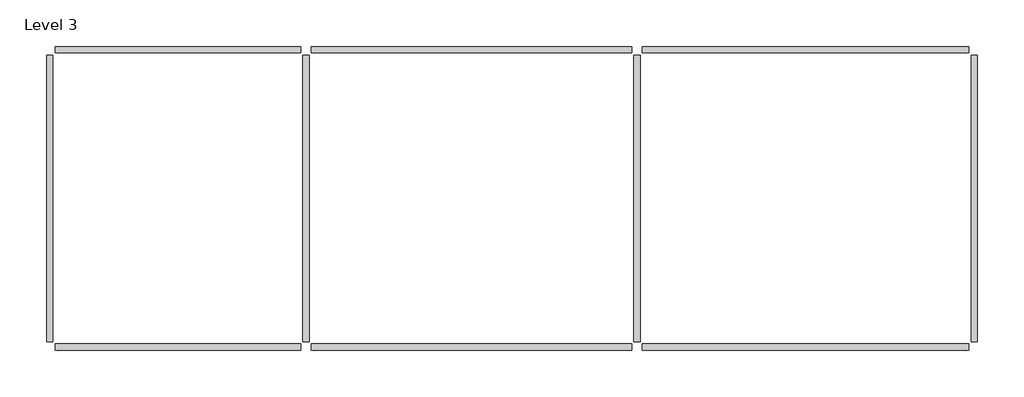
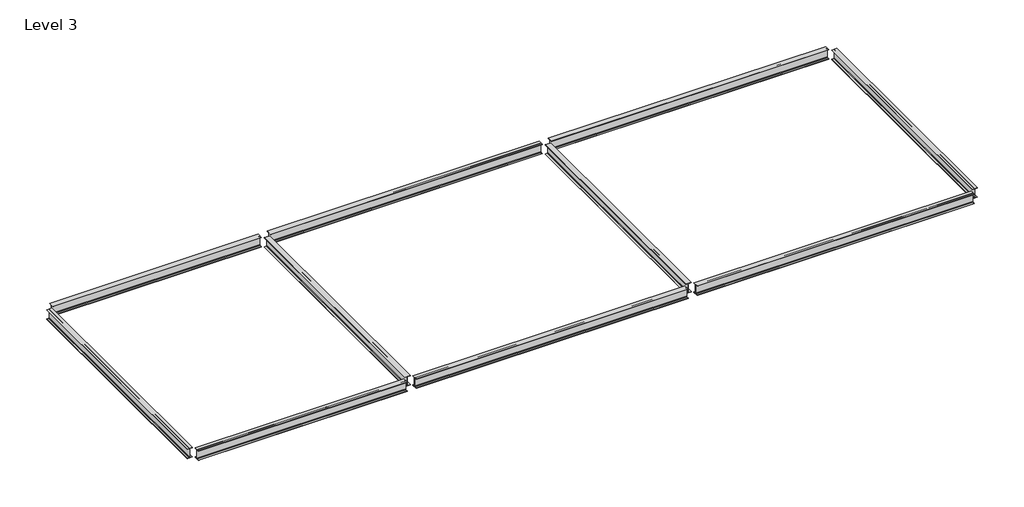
# One storey: 10 beams.
"""IFC4 building model written with IfcOpenShell, lengths in millimetres."""

import ifcopenshell
import ifcopenshell.guid

model = None  # the IFC model being written
_history = None  # IfcOwnerHistory: only IFC2X3 demands one
_inside = {}  # id of a spatial element -> (the spatial element, [elements in it])
_under = {}  # id of a project, library or spatial element -> (it, [spatial elements below it])
_declared = {}  # id of a project -> (the project, [libraries it declares])
_typed = {}  # id of a type object -> (the type object, [elements of that type])
_made_of = {}  # id of a material, layer set ... -> (it, [elements and type objects made of it])


def new_model(schema):
    """Start an empty IFC model of exactly this schema.

    Asked for "IFC4X3", IfcOpenShell would pick the latest addendum, in which some entities
    have other attributes; the version numbers below select the first issue.
    IFC2X3 requires an IfcOwnerHistory on every rooted entity: one is made here for all.
    """
    global model, _history
    if schema == "IFC4X3":
        model = ifcopenshell.file(schema_version=(4, 3, 0, 0))
    else:
        model = ifcopenshell.file(schema=schema)
    _inside.clear()
    _under.clear()
    _declared.clear()
    _typed.clear()
    _made_of.clear()
    _history = None
    if model.schema == "IFC2X3":
        org = make("IfcOrganization", Name="unknown")
        user = make(
            "IfcPersonAndOrganization",
            ThePerson=make("IfcPerson", FamilyName="unknown"),
            TheOrganization=org,
        )
        app = make(
            "IfcApplication",
            ApplicationDeveloper=org,
            Version="unknown",
            ApplicationFullName="unknown",
            ApplicationIdentifier="unknown",
        )
        _history = make(
            "IfcOwnerHistory",
            OwningUser=user,
            OwningApplication=app,
            ChangeAction="ADDED",
            CreationDate=0,
        )
    return model


def make(cls, **values):
    """One entity of the class cls with the attributes given. An attribute that is None is left unset."""
    return model.create_entity(
        cls, **{name: value for name, value in values.items() if value is not None}
    )


def rooted(cls, **values):
    """An entity with a GlobalId (a new one), such as an element, a storey or a relation."""
    return make(cls, GlobalId=ifcopenshell.guid.new(), OwnerHistory=_history, **values)


def si_unit(unit_type, name, prefix=None):
    """IfcSIUnit, for example si_unit("LENGTHUNIT", "METRE", prefix="MILLI")."""
    return make("IfcSIUnit", UnitType=unit_type, Prefix=prefix, Name=name)


def assignment(units):
    """IfcUnitAssignment: the units of a project."""
    return None if units is None else make("IfcUnitAssignment", Units=units)


def point(xyz):
    """IfcCartesianPoint."""
    return None if xyz is None else make("IfcCartesianPoint", Coordinates=xyz)


def direction(xyz):
    """IfcDirection."""
    return None if xyz is None else make("IfcDirection", DirectionRatios=xyz)


def frame(location, z_axis=None, x_axis=None):
    """IfcAxis2Placement3D, a coordinate frame: its origin and axes. An axis left out is left unset."""
    return make(
        "IfcAxis2Placement3D",
        Location=point(location),
        Axis=direction(z_axis),
        RefDirection=direction(x_axis),
    )


def frame_2d(location, x_axis=None):
    """IfcAxis2Placement2D, a coordinate frame in the plane: its origin and x axis."""
    return make(
        "IfcAxis2Placement2D", Location=point(location), RefDirection=direction(x_axis)
    )


def origin():
    """The frame at (0, 0, 0) with its axes left unset."""
    return frame((0.0, 0.0, 0.0))


def place(relative_to, where):
    """IfcLocalPlacement: puts the frame where relative to a parent placement (None: the world)."""
    return make(
        "IfcLocalPlacement", PlacementRelTo=relative_to, RelativePlacement=where
    )


def context(
    kind, dimensions, precision=None, world=None, true_north=None, identifier=None
):
    """IfcGeometricRepresentationContext, for example the 3D "Model" context."""
    return make(
        "IfcGeometricRepresentationContext",
        ContextIdentifier=identifier,
        ContextType=kind,
        CoordinateSpaceDimension=dimensions,
        Precision=precision,
        WorldCoordinateSystem=world,
        TrueNorth=true_north,
    )


def project(units=None, contexts=None):
    """IfcProject with its units and contexts."""
    return rooted(
        "IfcProject",
        Name="project",
        RepresentationContexts=contexts,
        UnitsInContext=assignment(units),
    )


def spatial(cls, under=None, at=None, **own):
    """A site, building, storey or space (cls), placed at a placement, below another one or the project."""
    s = rooted(cls, ObjectPlacement=at, **own)
    if under is not None:
        _under.setdefault(under.id(), (under, []))[1].append(s)
    return s


def polyline(points):
    """IfcPolyline through the points."""
    return make("IfcPolyline", Points=[point(p) for p in points])


def circle_curve(where, radius):
    """IfcCircle in the frame where."""
    return make("IfcCircle", Position=where, Radius=radius)


def trimmed(basis, trim1, trim2, sense, master):
    """IfcTrimmedCurve: the piece of a basis curve between two trims."""
    return make(
        "IfcTrimmedCurve",
        BasisCurve=basis,
        Trim1=trim1,
        Trim2=trim2,
        SenseAgreement=sense,
        MasterRepresentation=master,
    )


def segment(curve, same_sense, transition):
    """IfcCompositeCurveSegment."""
    return make(
        "IfcCompositeCurveSegment",
        Transition=transition,
        SameSense=same_sense,
        ParentCurve=curve,
    )


def composite_curve(segments, self_intersect=None):
    """IfcCompositeCurve: segments joined end to end."""
    return make("IfcCompositeCurve", Segments=segments, SelfIntersect=self_intersect)


def outline(outer, holes=None, kind="AREA"):
    """IfcArbitraryClosedProfileDef: a profile drawn as a closed curve; with holes, ...WithVoids."""
    if holes is None:
        return make("IfcArbitraryClosedProfileDef", ProfileType=kind, OuterCurve=outer)
    return make(
        "IfcArbitraryProfileDefWithVoids",
        ProfileType=kind,
        OuterCurve=outer,
        InnerCurves=holes,
    )


def extrude(swept, where, along, depth):
    """IfcExtrudedAreaSolid: the profile swept, set in the frame where, extruded along a direction by depth."""
    return make(
        "IfcExtrudedAreaSolid",
        SweptArea=swept,
        Position=where,
        ExtrudedDirection=direction(along),
        Depth=depth,
    )


def shape(context_of_items, identifier, shape_type, items):
    """IfcShapeRepresentation: the items that make up one representation, for example the "Body"."""
    return make(
        "IfcShapeRepresentation",
        ContextOfItems=context_of_items,
        RepresentationIdentifier=identifier,
        RepresentationType=shape_type,
        Items=items,
    )


def source(mapping_origin, context_of_items, identifier, shape_type, items):
    """IfcRepresentationMap: a shape defined once, which mapped items show again and again."""
    return make(
        "IfcRepresentationMap",
        MappingOrigin=mapping_origin,
        MappedRepresentation=shape(context_of_items, identifier, shape_type, items),
    )


def transform(
    local_origin,
    x_axis=None,
    y_axis=None,
    z_axis=None,
    scale=None,
    scale2=None,
    scale3=None,
    uniform=True,
):
    """IfcCartesianTransformationOperator3D, or its non-uniform kind. x_axis, y_axis, z_axis: its Axis1, 2, 3."""
    if uniform:
        return make(
            "IfcCartesianTransformationOperator3D",
            Axis1=direction(x_axis),
            Axis2=direction(y_axis),
            LocalOrigin=point(local_origin),
            Scale=scale,
            Axis3=direction(z_axis),
        )
    return make(
        "IfcCartesianTransformationOperator3DnonUniform",
        Axis1=direction(x_axis),
        Axis2=direction(y_axis),
        LocalOrigin=point(local_origin),
        Scale=scale,
        Axis3=direction(z_axis),
        Scale2=scale2,
        Scale3=scale3,
    )


def mapped(mapping_source, mapping_target):
    """IfcMappedItem: shows the shape of a source again, moved by a transform."""
    return make(
        "IfcMappedItem", MappingSource=mapping_source, MappingTarget=mapping_target
    )


def made_of(thing, what):
    """Note that an element or type object is made of a material, layer set ...; save() writes the relation."""
    if what is not None:
        _made_of.setdefault(what.id(), (what, []))[1].append(thing)
    return thing


def element(
    cls,
    number,
    at=None,
    inside=None,
    cuts=None,
    type_object=None,
    material=None,
    context=None,
    identifier="Body",
    shape_type=None,
    held_by="IfcProductDefinitionShape",
    body=None,
    shapes=None,
    **own,
):
    """One element of the class cls, such as IfcWall. Its Tag is "e" and its number.

    at: its placement. inside: the storey or other place that contains it. cuts: it is an
    opening in that element (IfcRelVoidsElement). A single representation is given by context,
    identifier, shape_type and body (its items); several are given by shapes. held_by: the class
    of the entity that holds the representations. save() writes the other relations.
    """
    e = rooted(cls, Tag="e%d" % number, ObjectPlacement=at, **own)
    if body is not None:
        shapes = [shape(context, identifier, shape_type, body)]
    if shapes is not None:
        e.Representation = make(held_by, Representations=shapes)
    if inside is not None:
        _inside.setdefault(inside.id(), (inside, []))[1].append(e)
    if cuts is not None:
        rooted(
            "IfcRelVoidsElement", RelatingBuildingElement=cuts, RelatedOpeningElement=e
        )
    if type_object is not None:
        _typed.setdefault(type_object.id(), (type_object, []))[1].append(e)
    return made_of(e, material)


def aggregate(whole, parts):
    """IfcRelAggregates: a whole, such as a stair, and the parts it consists of."""
    return rooted("IfcRelAggregates", RelatingObject=whole, RelatedObjects=parts)


def save(model, path):
    """Write the relations noted so far, then the file.

    IfcRelAggregates (storeys below a building ...), IfcRelContainedInSpatialStructure (elements
    in a storey), IfcRelDefinesByType, IfcRelAssociatesMaterial and IfcRelDeclares: one each for
    every whole, place, type object, material and project.
    """
    for whole, parts in _under.values():
        aggregate(whole, parts)
    for where, things in _inside.values():
        rooted(
            "IfcRelContainedInSpatialStructure",
            RelatedElements=things,
            RelatingStructure=where,
        )
    for kind, things in _typed.values():
        rooted("IfcRelDefinesByType", RelatedObjects=things, RelatingType=kind)
    for what, things in _made_of.values():
        rooted("IfcRelAssociatesMaterial", RelatedObjects=things, RelatingMaterial=what)
    for by, libraries in _declared.values():
        rooted("IfcRelDeclares", RelatingContext=by, RelatedDefinitions=libraries)
    model.write(path)


def w_wide_flange_w12x26_3f871b78(model_context):
    return source(origin(), model_context, "Body", "SweptSolid", [
        extrude(outline(composite_curve([segment(polyline([(82.4011719, -145.5539063), (82.4011719, -155.178125), (-82.4011719, -155.178125), (-82.4011719, -145.5539063), (-20.2902344, -145.5539063)]), True, "CONTINUOUS"), segment(trimmed(circle_curve(frame_2d((-20.2902344, -128.190625)), 17.3632812), [point((-20.2902344, -145.5539063))], [point((-2.9269531, -128.190625))], True, "CARTESIAN"), True, "CONTINUOUS"), segment(polyline([(-2.9269531, -128.190625), (-2.9269531, 128.190625)]), True, "CONTINUOUS"), segment(trimmed(circle_curve(frame_2d((-20.2902344, 128.190625)), 17.3632812), [point((-2.9269531, 128.190625))], [point((-20.2902344, 145.5539062))], True, "CARTESIAN"), True, "CONTINUOUS"), segment(polyline([(-20.2902344, 145.5539062), (-82.4011719, 145.5539062), (-82.4011719, 155.178125), (82.4011719, 155.178125), (82.4011719, 145.5539062), (20.2902344, 145.5539062)]), True, "CONTINUOUS"), segment(trimmed(circle_curve(frame_2d((20.2902344, 128.190625)), 17.3632812), [point((20.2902344, 145.5539062))], [point((2.9269531, 128.190625))], True, "CARTESIAN"), True, "CONTINUOUS"), segment(polyline([(2.9269531, 128.190625), (2.9269531, -128.190625)]), True, "CONTINUOUS"), segment(trimmed(circle_curve(frame_2d((20.2902344, -128.190625)), 17.3632812), [point((2.9269531, -128.190625))], [point((20.2902344, -145.5539063))], True, "CARTESIAN"), True, "CONTINUOUS"), segment(polyline([(20.2902344, -145.5539063), (82.4011719, -145.5539063)]), True, "CONTINUOUS")], self_intersect=False)), frame((-3219.9874869, 0.0, 0.0), z_axis=(1.0, 0.0, 0.0), x_axis=(0.0, 1.0, 0.0)), (0.0, 0.0, 1.0), 6439.9749737),
    ])


def w_wide_flange_w12x26_4810f4f7(model_context):
    return source(origin(), model_context, "Body", "SweptSolid", [
        extrude(outline(composite_curve([segment(polyline([(82.4011719, -145.5539063), (82.4011719, -155.178125), (-82.4011719, -155.178125), (-82.4011719, -145.5539063), (-20.2902344, -145.5539063)]), True, "CONTINUOUS"), segment(trimmed(circle_curve(frame_2d((-20.2902344, -128.190625)), 17.3632812), [point((-20.2902344, -145.5539063))], [point((-2.9269531, -128.190625))], True, "CARTESIAN"), True, "CONTINUOUS"), segment(polyline([(-2.9269531, -128.190625), (-2.9269531, 128.190625)]), True, "CONTINUOUS"), segment(trimmed(circle_curve(frame_2d((-20.2902344, 128.190625)), 17.3632812), [point((-2.9269531, 128.190625))], [point((-20.2902344, 145.5539062))], True, "CARTESIAN"), True, "CONTINUOUS"), segment(polyline([(-20.2902344, 145.5539062), (-82.4011719, 145.5539062), (-82.4011719, 155.178125), (82.4011719, 155.178125), (82.4011719, 145.5539062), (20.2902344, 145.5539062)]), True, "CONTINUOUS"), segment(trimmed(circle_curve(frame_2d((20.2902344, 128.190625)), 17.3632812), [point((20.2902344, 145.5539062))], [point((2.9269531, 128.190625))], True, "CARTESIAN"), True, "CONTINUOUS"), segment(polyline([(2.9269531, 128.190625), (2.9269531, -128.190625)]), True, "CONTINUOUS"), segment(trimmed(circle_curve(frame_2d((20.2902344, -128.190625)), 17.3632812), [point((2.9269531, -128.190625))], [point((20.2902344, -145.5539063))], True, "CARTESIAN"), True, "CONTINUOUS"), segment(polyline([(20.2902344, -145.5539063), (82.4011719, -145.5539063)]), True, "CONTINUOUS")], self_intersect=False)), frame((-3754.7312703, 0.0, 0.0), z_axis=(1.0, 0.0, 0.0), x_axis=(0.0, 1.0, 0.0)), (0.0, 0.0, 1.0), 7509.4625406),
    ])


def w_wide_flange_w12x26_0d1df96e(model_context):
    return source(origin(), model_context, "Body", "SweptSolid", [
        extrude(outline(composite_curve([segment(polyline([(82.4011719, -145.5539063), (82.4011719, -155.178125), (-82.4011719, -155.178125), (-82.4011719, -145.5539063), (-20.2902344, -145.5539063)]), True, "CONTINUOUS"), segment(trimmed(circle_curve(frame_2d((-20.2902344, -128.190625)), 17.3632812), [point((-20.2902344, -145.5539063))], [point((-2.9269531, -128.190625))], True, "CARTESIAN"), True, "CONTINUOUS"), segment(polyline([(-2.9269531, -128.190625), (-2.9269531, 128.190625)]), True, "CONTINUOUS"), segment(trimmed(circle_curve(frame_2d((-20.2902344, 128.190625)), 17.3632812), [point((-2.9269531, 128.190625))], [point((-20.2902344, 145.5539062))], True, "CARTESIAN"), True, "CONTINUOUS"), segment(polyline([(-20.2902344, 145.5539062), (-82.4011719, 145.5539062), (-82.4011719, 155.178125), (82.4011719, 155.178125), (82.4011719, 145.5539062), (20.2902344, 145.5539062)]), True, "CONTINUOUS"), segment(trimmed(circle_curve(frame_2d((20.2902344, 128.190625)), 17.3632812), [point((20.2902344, 145.5539062))], [point((2.9269531, 128.190625))], True, "CARTESIAN"), True, "CONTINUOUS"), segment(polyline([(2.9269531, 128.190625), (2.9269531, -128.190625)]), True, "CONTINUOUS"), segment(trimmed(circle_curve(frame_2d((20.2902344, -128.190625)), 17.3632812), [point((2.9269531, -128.190625))], [point((20.2902344, -145.5539063))], True, "CARTESIAN"), True, "CONTINUOUS"), segment(polyline([(20.2902344, -145.5539063), (82.4011719, -145.5539063)]), True, "CONTINUOUS")], self_intersect=False)), frame((-4196.8125131, 0.0, 0.0), z_axis=(1.0, 0.0, 0.0), x_axis=(0.0, 1.0, 0.0)), (0.0, 0.0, 1.0), 8393.6250263),
    ])


def w_wide_flange_w12x26_08aea776(model_context):
    return source(origin(), model_context, "Body", "SweptSolid", [
        extrude(outline(composite_curve([segment(polyline([(82.4011719, -145.5539063), (82.4011719, -155.178125), (-82.4011719, -155.178125), (-82.4011719, -145.5539063), (-20.2902344, -145.5539063)]), True, "CONTINUOUS"), segment(trimmed(circle_curve(frame_2d((-20.2902344, -128.190625)), 17.3632812), [point((-20.2902344, -145.5539063))], [point((-2.9269531, -128.190625))], True, "CARTESIAN"), True, "CONTINUOUS"), segment(polyline([(-2.9269531, -128.190625), (-2.9269531, 128.190625)]), True, "CONTINUOUS"), segment(trimmed(circle_curve(frame_2d((-20.2902344, 128.190625)), 17.3632812), [point((-2.9269531, 128.190625))], [point((-20.2902344, 145.5539062))], True, "CARTESIAN"), True, "CONTINUOUS"), segment(polyline([(-20.2902344, 145.5539062), (-82.4011719, 145.5539062), (-82.4011719, 155.178125), (82.4011719, 155.178125), (82.4011719, 145.5539062), (20.2902344, 145.5539062)]), True, "CONTINUOUS"), segment(trimmed(circle_curve(frame_2d((20.2902344, 128.190625)), 17.3632812), [point((20.2902344, 145.5539062))], [point((2.9269531, 128.190625))], True, "CARTESIAN"), True, "CONTINUOUS"), segment(polyline([(2.9269531, 128.190625), (2.9269531, -128.190625)]), True, "CONTINUOUS"), segment(trimmed(circle_curve(frame_2d((20.2902344, -128.190625)), 17.3632812), [point((2.9269531, -128.190625))], [point((20.2902344, -145.5539063))], True, "CARTESIAN"), True, "CONTINUOUS"), segment(polyline([(20.2902344, -145.5539063), (82.4011719, -145.5539063)]), True, "CONTINUOUS")], self_intersect=False)), frame((-4279.9, 0.0, 0.0), z_axis=(1.0, 0.0, 0.0), x_axis=(0.0, 1.0, 0.0)), (0.0, 0.0, 1.0), 8559.8),
    ])


model = new_model("IFC4")

# Units and contexts
model_context = context("Model", 3, world=origin())
ifc_project = project(units=[si_unit("LENGTHUNIT", "METRE", prefix="MILLI")], contexts=[model_context])

# Site, building, storey
site = spatial("IfcSite", under=ifc_project)
building = spatial("IfcBuilding", under=site)
storey = spatial("IfcBuildingStorey", under=building, Name="Level 3", Elevation=5791.2)

# Beams
placement = place(None, origin())
w_wide_flange_w12x26_shape = w_wide_flange_w12x26_3f871b78(model_context)
element("IfcBeam", 1, ObjectType="W-Wide Flange : W12X26", at=placement, inside=storey, context=model_context, shape_type="MappedRepresentation", body=[
    mapped(w_wide_flange_w12x26_shape, transform((-18444.2117074, 20379.1714933, 5636.021875), x_axis=(1.0, 0.0, 0.0), y_axis=(0.0, 1.0, 0.0), z_axis=(0.0, 0.0, 1.0))),
])
element("IfcBeam", 2, ObjectType="W-Wide Flange : W12X26", at=placement, inside=storey, context=model_context, shape_type="MappedRepresentation", body=[
    mapped(w_wide_flange_w12x26_shape, transform((-18444.2117074, 12590.8050464, 5636.021875), x_axis=(-1.0, 0.0, 0.0), y_axis=(0.0, -1.0, 0.0), z_axis=(0.0, 0.0, 1.0))),
])
w_wide_flange_w12x26_2_shape = w_wide_flange_w12x26_4810f4f7(model_context)
element("IfcBeam", 3, ObjectType="W-Wide Flange : W12X26", at=placement, inside=storey, context=model_context, shape_type="MappedRepresentation", body=[
    mapped(w_wide_flange_w12x26_2_shape, transform((-21803.8991943, 16484.9882699, 5636.021875), x_axis=(0.0, -1.0, 0.0), y_axis=(1.0, 0.0, 0.0), z_axis=(0.0, 0.0, 1.0))),
])
element("IfcBeam", 4, ObjectType="W-Wide Flange : W12X26", at=placement, inside=storey, context=model_context, shape_type="MappedRepresentation", body=[
    mapped(w_wide_flange_w12x26_2_shape, transform((-15084.5242206, 16484.9882699, 5636.021875), x_axis=(0.0, -1.0, 0.0), y_axis=(1.0, 0.0, 0.0), z_axis=(0.0, 0.0, 1.0))),
])
element("IfcBeam", 5, ObjectType="W-Wide Flange : W12X26", at=placement, inside=storey, context=model_context, shape_type="MappedRepresentation", body=[
    mapped(w_wide_flange_w12x26_2_shape, transform((-6411.4991943, 16484.9882699, 5636.021875), x_axis=(0.0, -1.0, 0.0), y_axis=(1.0, 0.0, 0.0), z_axis=(0.0, 0.0, 1.0))),
])
element("IfcBeam", 6, ObjectType="W-Wide Flange : W12X26", at=placement, inside=storey, context=model_context, shape_type="MappedRepresentation", body=[
    mapped(w_wide_flange_w12x26_2_shape, transform((2427.7008057, 16484.9882699, 5636.021875), x_axis=(0.0, 1.0, 0.0), y_axis=(-1.0, 0.0, 0.0), z_axis=(0.0, 0.0, 1.0))),
])
w_wide_flange_w12x26_3_shape = w_wide_flange_w12x26_0d1df96e(model_context)
element("IfcBeam", 7, ObjectType="W-Wide Flange : W12X26", at=placement, inside=storey, context=model_context, shape_type="MappedRepresentation", body=[
    mapped(w_wide_flange_w12x26_3_shape, transform((-10748.0117074, 20379.1714933, 5636.021875), x_axis=(1.0, 0.0, 0.0), y_axis=(0.0, 1.0, 0.0), z_axis=(0.0, 0.0, 1.0))),
])
element("IfcBeam", 8, ObjectType="W-Wide Flange : W12X26", at=placement, inside=storey, context=model_context, shape_type="MappedRepresentation", body=[
    mapped(w_wide_flange_w12x26_3_shape, transform((-10748.0117074, 12590.8050464, 5636.021875), x_axis=(1.0, 0.0, 0.0), y_axis=(0.0, 1.0, 0.0), z_axis=(0.0, 0.0, 1.0))),
])
w_wide_flange_w12x26_4_shape = w_wide_flange_w12x26_08aea776(model_context)
element("IfcBeam", 9, ObjectType="W-Wide Flange : W12X26", at=placement, inside=storey, context=model_context, shape_type="MappedRepresentation", body=[
    mapped(w_wide_flange_w12x26_4_shape, transform((-1991.8991943, 20379.1714933, 5636.021875), x_axis=(1.0, 0.0, 0.0), y_axis=(0.0, 1.0, 0.0), z_axis=(0.0, 0.0, 1.0))),
])
element("IfcBeam", 10, ObjectType="W-Wide Flange : W12X26", at=placement, inside=storey, context=model_context, shape_type="MappedRepresentation", body=[
    mapped(w_wide_flange_w12x26_4_shape, transform((-1991.8991943, 12590.8050464, 5636.021875), x_axis=(1.0, 0.0, 0.0), y_axis=(0.0, 1.0, 0.0), z_axis=(0.0, 0.0, 1.0))),
])

save(model, "model.ifc")
